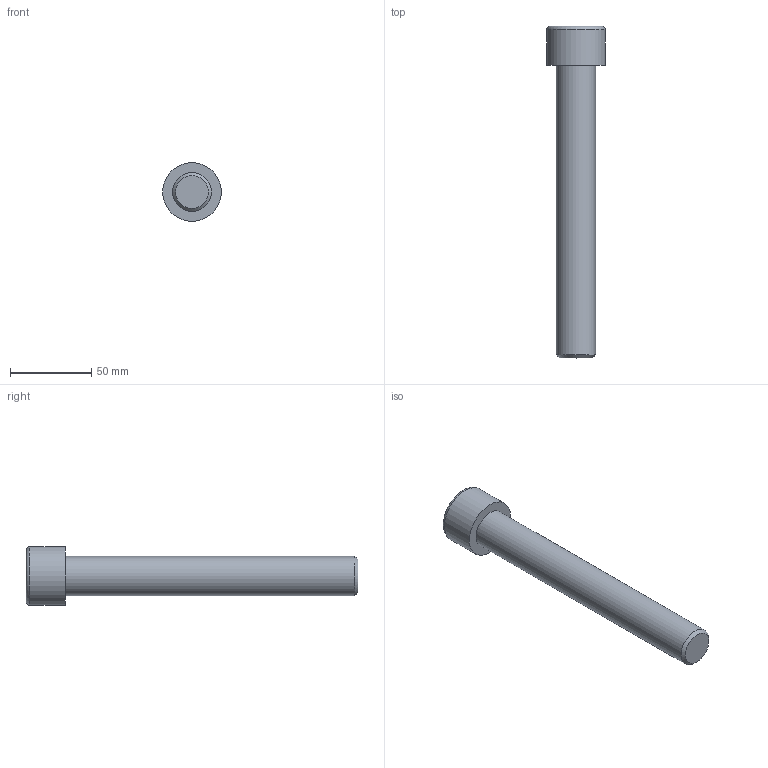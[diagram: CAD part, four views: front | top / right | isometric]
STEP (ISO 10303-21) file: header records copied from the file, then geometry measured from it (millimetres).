
FILE_DESCRIPTION(/* description */ (''),/* implementation_level */ '2;1');
FILE_NAME(/* name */ 'C:\Users\D\Documents\Inventor\各種小物\JIS\JIS B 1176 六角穴付きボルト\M24x180.stp',/* time_stamp */ '2022-05-09T18:59:42+09:00',/* author */ ('D'),/* organization */ (''),/* preprocessor_version */ 'ST-DEVELOPER v18',/* originating_system */ 'Autodesk Inventor 2020',/* authorisation */ '');
FILE_SCHEMA (('AUTOMOTIVE_DESIGN { 1 0 10303 214 3 1 1 }'));
Length unit declared in the file: millimetre
Products named in the file (1): M1.6x2.5
Bounding box: 36 x 204 x 36 mm (x, y, z)
Volume: 101074.5 mm3; surface area: 18991.9 mm2
Topology: 1 solids, 1 shells, 14 faces, 33 edges, 22 vertices
Faces by surface type: plane 9, cone 2, cylinder 2, torus 1
Full cylindrical faces by diameter (mm): 24 x1, 36 x1
Entity records: 435 total; most frequent: CARTESIAN_POINT 83, ORIENTED_EDGE 64, DIRECTION 64, EDGE_CURVE 32, AXIS2_PLACEMENT_3D 24, VERTEX_POINT 22, EDGE_LOOP 16, LINE 16
